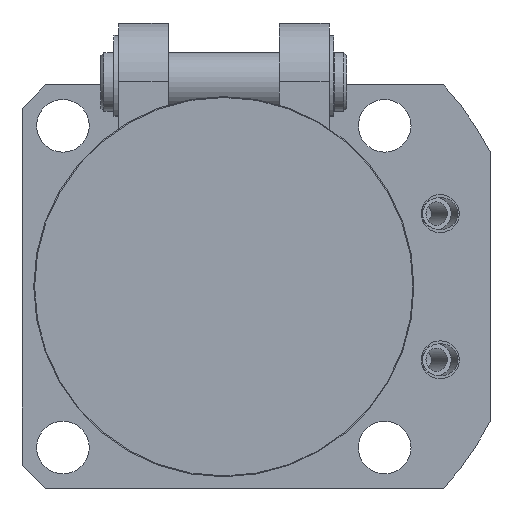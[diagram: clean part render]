
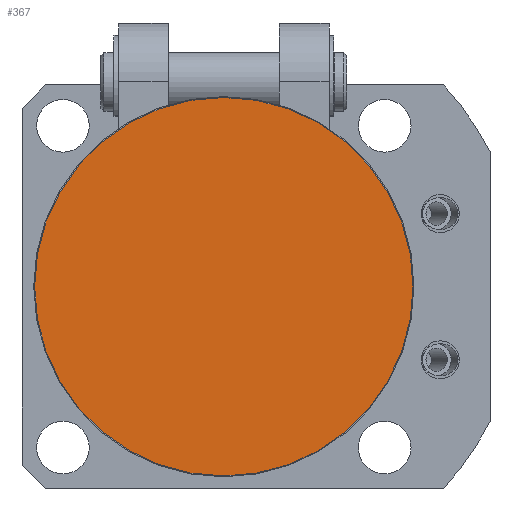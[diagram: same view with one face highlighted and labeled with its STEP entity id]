
A CAD part, front view. The second image highlights one B-rep face of the part: STEP entity #367.
In plain terms, the highlighted planar face has unit normal (0, -1, 0).
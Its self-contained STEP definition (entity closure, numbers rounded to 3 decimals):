
#367 = ADVANCED_FACE( '', ( #700 ), #701, .T. );
#700 = FACE_OUTER_BOUND( '', #1361, .T. );
#701 = PLANE( '', #1362 );
#1361 = EDGE_LOOP( '', ( #2179 ) );
#1362 = AXIS2_PLACEMENT_3D( '', #2180, #2181, #2182 );
#2179 = ORIENTED_EDGE( '', *, *, #4109, .T. );
#2180 = CARTESIAN_POINT( '', ( 0., -63., 0. ) );
#2181 = DIRECTION( '', ( 0., -1., 0. ) );
#2182 = DIRECTION( '', ( 1., 0., 0. ) );
#4109 = EDGE_CURVE( '', #4841, #4841, #4842, .T. );
#4841 = VERTEX_POINT( '', #6075 );
#4842 = CIRCLE( '', #6076, 32.35 );
#6075 = CARTESIAN_POINT( '', ( -32.35, -63., 0. ) );
#6076 = AXIS2_PLACEMENT_3D( '', #7600, #7601, #7602 );
#7600 = CARTESIAN_POINT( '', ( 0., -63., 0. ) );
#7601 = DIRECTION( '', ( 0., -1., 0. ) );
#7602 = DIRECTION( '', ( -1., 0., 0. ) );
